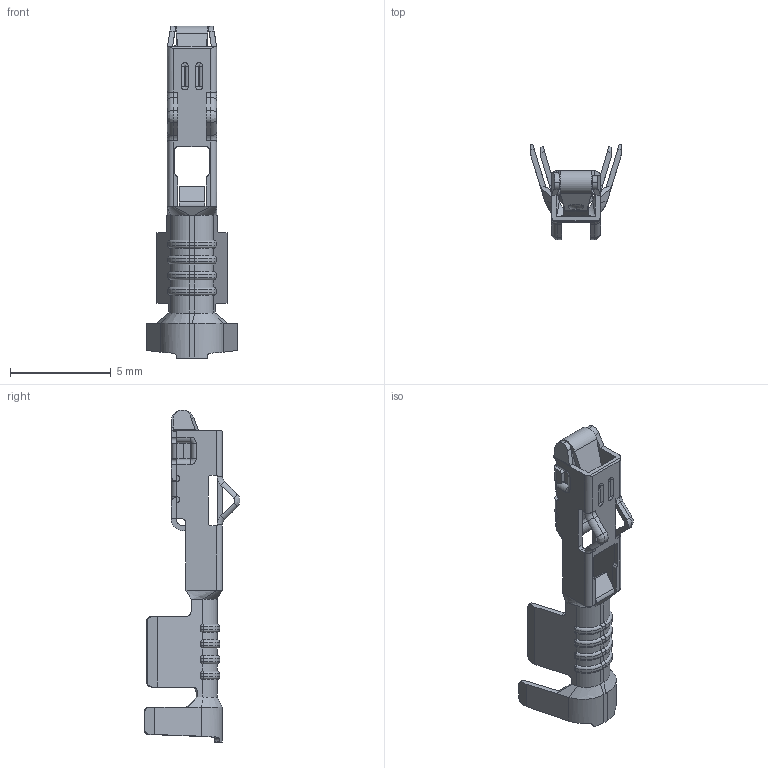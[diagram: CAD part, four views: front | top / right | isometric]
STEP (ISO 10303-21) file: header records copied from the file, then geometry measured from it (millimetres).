
FILE_DESCRIPTION((''),'2;1');
FILE_NAME('4250000872_REDRAW','2016-06-07T',('rjap'),(''),'PRO/ENGINEER BY PARAMETRIC TECHNOLOGY CORPORATION, 2014200','PRO/ENGINEER BY PARAMETRIC TECHNOLOGY CORPORATION, 2014200','');
FILE_SCHEMA(('CONFIG_CONTROL_DESIGN'));
Length unit declared in the file: millimetre
Products named in the file (1): 4250000872_REDRAW
Bounding box: 4.5 x 4.76 x 16.49 mm (x, y, z)
Volume: 30.2 mm3; surface area: 273.4 mm2
Topology: 1 solids, 1 shells, 517 faces, 1285 edges, 753 vertices
Faces by surface type: cylinder 206, plane 162, bspline 61, torus 60, sphere 28
Entity records: 17673 total; most frequent: CARTESIAN_POINT 5487, DIRECTION 2609, ORIENTED_EDGE 2550, EDGE_CURVE 1275, AXIS2_PLACEMENT_3D 965, VERTEX_POINT 753, VECTOR 679, LINE 679
